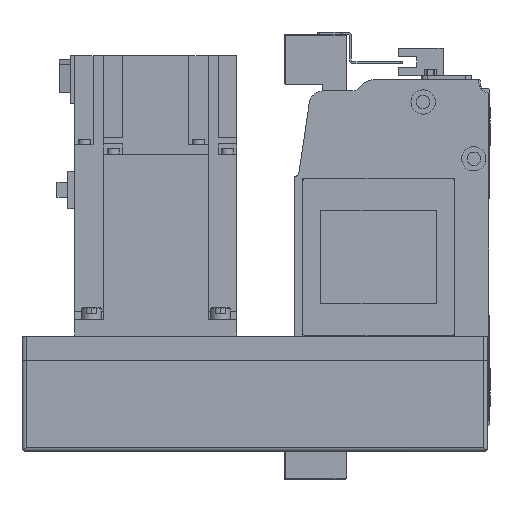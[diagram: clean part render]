
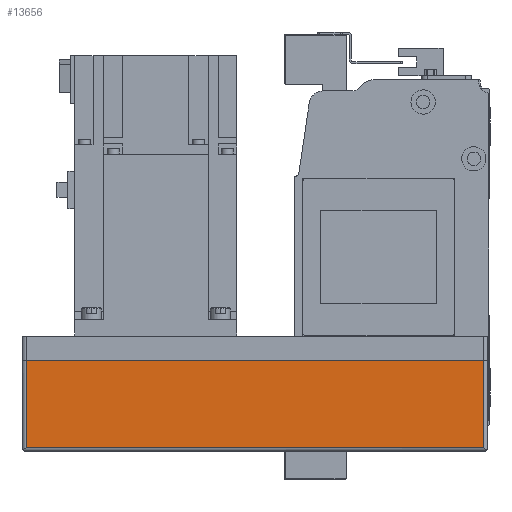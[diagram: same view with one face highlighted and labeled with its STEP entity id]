
A CAD part, left-side view. The second image highlights one B-rep face of the part: STEP entity #13656.
In plain terms, the highlighted planar face has unit normal (-1, 0, 0) as drawn and (0, -1, 0) by its records, which use the part's own axes.
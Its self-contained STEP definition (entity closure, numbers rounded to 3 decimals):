
#2351=ORIENTED_EDGE('',*,*,#5616,.F.);
#2352=ORIENTED_EDGE('',*,*,#5619,.T.);
#2353=ORIENTED_EDGE('',*,*,#5620,.T.);
#2354=ORIENTED_EDGE('',*,*,#5621,.F.);
#5616=EDGE_CURVE('',#7379,#7380,#8815,.T.);
#5619=EDGE_CURVE('',#7379,#7382,#8817,.T.);
#5620=EDGE_CURVE('',#7382,#7383,#8818,.T.);
#5621=EDGE_CURVE('',#7380,#7383,#8819,.T.);
#7379=VERTEX_POINT('',#21367);
#7380=VERTEX_POINT('',#21369);
#7382=VERTEX_POINT('',#21375);
#7383=VERTEX_POINT('',#21377);
#8815=LINE('',#21368,#10128);
#8817=LINE('',#21374,#10130);
#8818=LINE('',#21376,#10131);
#8819=LINE('',#21378,#10132);
#10128=VECTOR('',#17074,1000.);
#10130=VECTOR('',#17080,1000.);
#10131=VECTOR('',#17081,1000.);
#10132=VECTOR('',#17082,1000.);
#11252=EDGE_LOOP('',(#2351,#2352,#2353,#2354));
#12243=FACE_BOUND('',#11252,.T.);
#13084=PLANE('',#14646);
#13656=ADVANCED_FACE('',(#12243),#13084,.T.);
#14646=AXIS2_PLACEMENT_3D('',#21373,#17078,#17079);
#17074=DIRECTION('',(0.,0.,1.));
#17078=DIRECTION('',(0.,-1.,0.));
#17079=DIRECTION('',(0.,0.,-1.));
#17080=DIRECTION('',(1.,0.,0.));
#17081=DIRECTION('',(0.,0.,1.));
#17082=DIRECTION('',(1.,0.,0.));
#21367=CARTESIAN_POINT('',(-228.,-54.,-55.));
#21368=CARTESIAN_POINT('',(-228.,-54.,-57.));
#21369=CARTESIAN_POINT('',(-228.,-54.,-12.));
#21373=CARTESIAN_POINT('',(-228.,-54.,-57.));
#21374=CARTESIAN_POINT('',(-230.,-54.,-55.));
#21375=CARTESIAN_POINT('',(-2.,-54.,-55.));
#21376=CARTESIAN_POINT('',(-2.,-54.,-57.));
#21377=CARTESIAN_POINT('',(-2.,-54.,-12.));
#21378=CARTESIAN_POINT('',(-228.,-54.,-12.));
